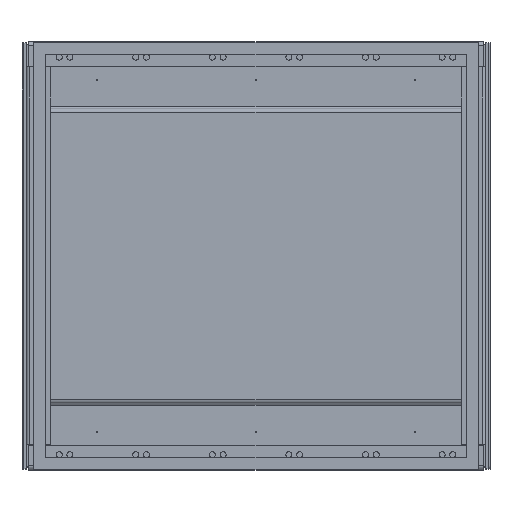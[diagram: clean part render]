
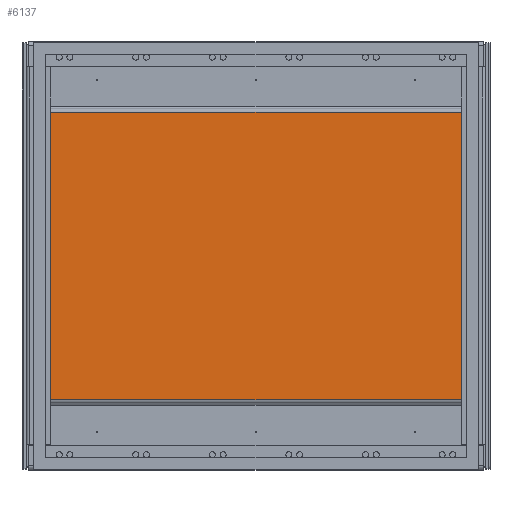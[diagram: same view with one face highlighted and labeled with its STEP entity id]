
A CAD part, top view. The second image highlights one B-rep face of the part: STEP entity #6137.
In plain terms, the highlighted planar face has unit normal (0, 0, 1).
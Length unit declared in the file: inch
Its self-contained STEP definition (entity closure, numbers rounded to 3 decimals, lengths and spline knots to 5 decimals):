
#713 = FACE_OUTER_BOUND ( 'NONE', #4578, .T. ) ;
#826 = CARTESIAN_POINT ( 'NONE',  ( 11.683, 7.464, 0.128 ) ) ;
#828 = PLANE ( 'NONE',  #917 ) ;
#831 = DIRECTION ( 'NONE',  ( 0., 0., -1. ) ) ;
#832 = DIRECTION ( 'NONE',  ( -1., 0., 0. ) ) ;
#917 = AXIS2_PLACEMENT_3D ( 'NONE', #826, #831, #832 ) ;
#1993 = LINE ( 'NONE', #2032, #1994 ) ;
#1994 = VECTOR ( 'NONE', #2033, 39.37008 ) ;
#1995 = LINE ( 'NONE', #2034, #1996 ) ;
#1996 = VECTOR ( 'NONE', #2035, 39.37008 ) ;
#2032 = CARTESIAN_POINT ( 'NONE',  ( 11.683, 7.384, 0.128 ) ) ;
#2033 = DIRECTION ( 'NONE',  ( -1., 0., 0. ) ) ;
#2034 = CARTESIAN_POINT ( 'NONE',  ( 11.683, -7.384, 0.128 ) ) ;
#2035 = DIRECTION ( 'NONE',  ( -1., 0., 0. ) ) ;
#2769 = CARTESIAN_POINT ( 'NONE',  ( -11.683, -7.384, 0.128 ) ) ;
#4578 = EDGE_LOOP ( 'NONE', ( #7582, #7583, #7584, #7585 ) ) ;
#5152 = VERTEX_POINT ( 'NONE', #8732 ) ;
#5156 = VERTEX_POINT ( 'NONE', #8736 ) ;
#5158 = VERTEX_POINT ( 'NONE', #8738 ) ;
#5646 = EDGE_CURVE ( 'NONE', #5158, #5156, #10553, .T. ) ;
#5665 = EDGE_CURVE ( 'NONE', #5152, #6866, #10581, .T. ) ;
#6137 = ADVANCED_FACE ( 'NONE', ( #713 ), #828, .F. ) ;
#6262 = EDGE_CURVE ( 'NONE', #5158, #5152, #1993, .T. ) ;
#6263 = EDGE_CURVE ( 'NONE', #5156, #6866, #1995, .T. ) ;
#6866 = VERTEX_POINT ( 'NONE', #2769 ) ;
#7582 = ORIENTED_EDGE ( 'NONE', *, *, #5665, .T. ) ;
#7583 = ORIENTED_EDGE ( 'NONE', *, *, #6263, .F. ) ;
#7584 = ORIENTED_EDGE ( 'NONE', *, *, #5646, .F. ) ;
#7585 = ORIENTED_EDGE ( 'NONE', *, *, #6262, .T. ) ;
#8732 = CARTESIAN_POINT ( 'NONE',  ( -11.683, 7.384, 0.128 ) ) ;
#8736 = CARTESIAN_POINT ( 'NONE',  ( 11.683, -7.384, 0.128 ) ) ;
#8738 = CARTESIAN_POINT ( 'NONE',  ( 11.683, 7.384, 0.128 ) ) ;
#10464 = CARTESIAN_POINT ( 'NONE',  ( 11.683, 7.464, 0.128 ) ) ;
#10472 = DIRECTION ( 'NONE',  ( 0., -1., 0. ) ) ;
#10553 = LINE ( 'NONE', #10464, #10555 ) ;
#10555 = VECTOR ( 'NONE', #10472, 39.37008 ) ;
#10581 = LINE ( 'NONE', #10650, #10587 ) ;
#10587 = VECTOR ( 'NONE', #10653, 39.37008 ) ;
#10650 = CARTESIAN_POINT ( 'NONE',  ( -11.683, 7.464, 0.128 ) ) ;
#10653 = DIRECTION ( 'NONE',  ( 0., -1., 0. ) ) ;
